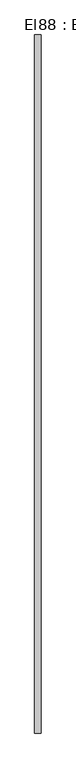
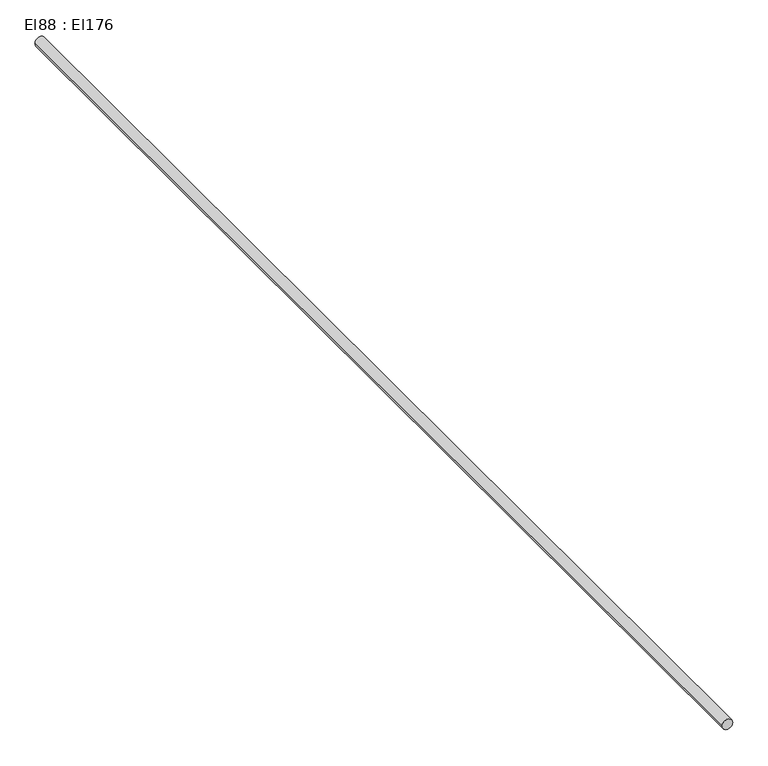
"""IFC4 building model written with IfcOpenShell, lengths in millimetres: cable carrier segment geometry, El88 : El176."""

import ifcopenshell
import ifcopenshell.guid

model = None  # the IFC model being written
_history = None  # IfcOwnerHistory: only IFC2X3 demands one
_inside = {}  # id of a spatial element -> (the spatial element, [elements in it])
_under = {}  # id of a project, library or spatial element -> (it, [spatial elements below it])
_declared = {}  # id of a project -> (the project, [libraries it declares])
_typed = {}  # id of a type object -> (the type object, [elements of that type])
_made_of = {}  # id of a material, layer set ... -> (it, [elements and type objects made of it])


def new_model(schema):
    """Start an empty IFC model of exactly this schema.

    Asked for "IFC4X3", IfcOpenShell would pick the latest addendum, in which some entities
    have other attributes; the version numbers below select the first issue.
    IFC2X3 requires an IfcOwnerHistory on every rooted entity: one is made here for all.
    """
    global model, _history
    if schema == "IFC4X3":
        model = ifcopenshell.file(schema_version=(4, 3, 0, 0))
    else:
        model = ifcopenshell.file(schema=schema)
    _inside.clear()
    _under.clear()
    _declared.clear()
    _typed.clear()
    _made_of.clear()
    _history = None
    if model.schema == "IFC2X3":
        org = make("IfcOrganization", Name="unknown")
        user = make(
            "IfcPersonAndOrganization",
            ThePerson=make("IfcPerson", FamilyName="unknown"),
            TheOrganization=org,
        )
        app = make(
            "IfcApplication",
            ApplicationDeveloper=org,
            Version="unknown",
            ApplicationFullName="unknown",
            ApplicationIdentifier="unknown",
        )
        _history = make(
            "IfcOwnerHistory",
            OwningUser=user,
            OwningApplication=app,
            ChangeAction="ADDED",
            CreationDate=0,
        )
    return model


def make(cls, **values):
    """One entity of the class cls with the attributes given. An attribute that is None is left unset."""
    return model.create_entity(
        cls, **{name: value for name, value in values.items() if value is not None}
    )


def rooted(cls, **values):
    """An entity with a GlobalId (a new one), such as an element, a storey or a relation."""
    return make(cls, GlobalId=ifcopenshell.guid.new(), OwnerHistory=_history, **values)


def si_unit(unit_type, name, prefix=None):
    """IfcSIUnit, for example si_unit("LENGTHUNIT", "METRE", prefix="MILLI")."""
    return make("IfcSIUnit", UnitType=unit_type, Prefix=prefix, Name=name)


def assignment(units):
    """IfcUnitAssignment: the units of a project."""
    return None if units is None else make("IfcUnitAssignment", Units=units)


def point(xyz):
    """IfcCartesianPoint."""
    return None if xyz is None else make("IfcCartesianPoint", Coordinates=xyz)


def direction(xyz):
    """IfcDirection."""
    return None if xyz is None else make("IfcDirection", DirectionRatios=xyz)


def frame(location, z_axis=None, x_axis=None):
    """IfcAxis2Placement3D, a coordinate frame: its origin and axes. An axis left out is left unset."""
    return make(
        "IfcAxis2Placement3D",
        Location=point(location),
        Axis=direction(z_axis),
        RefDirection=direction(x_axis),
    )


def frame_2d(location, x_axis=None):
    """IfcAxis2Placement2D, a coordinate frame in the plane: its origin and x axis."""
    return make(
        "IfcAxis2Placement2D", Location=point(location), RefDirection=direction(x_axis)
    )


def origin():
    """The frame at (0, 0, 0) with its axes left unset."""
    return frame((0.0, 0.0, 0.0))


def place(relative_to, where):
    """IfcLocalPlacement: puts the frame where relative to a parent placement (None: the world)."""
    return make(
        "IfcLocalPlacement", PlacementRelTo=relative_to, RelativePlacement=where
    )


def context(
    kind, dimensions, precision=None, world=None, true_north=None, identifier=None
):
    """IfcGeometricRepresentationContext, for example the 3D "Model" context."""
    return make(
        "IfcGeometricRepresentationContext",
        ContextIdentifier=identifier,
        ContextType=kind,
        CoordinateSpaceDimension=dimensions,
        Precision=precision,
        WorldCoordinateSystem=world,
        TrueNorth=true_north,
    )


def project(units=None, contexts=None):
    """IfcProject with its units and contexts."""
    return rooted(
        "IfcProject",
        Name="project",
        RepresentationContexts=contexts,
        UnitsInContext=assignment(units),
    )


def spatial(cls, under=None, at=None, **own):
    """A site, building, storey or space (cls), placed at a placement, below another one or the project."""
    s = rooted(cls, ObjectPlacement=at, **own)
    if under is not None:
        _under.setdefault(under.id(), (under, []))[1].append(s)
    return s


def circle_curve(where, radius):
    """IfcCircle in the frame where."""
    return make("IfcCircle", Position=where, Radius=radius)


def trimmed(basis, trim1, trim2, sense, master):
    """IfcTrimmedCurve: the piece of a basis curve between two trims."""
    return make(
        "IfcTrimmedCurve",
        BasisCurve=basis,
        Trim1=trim1,
        Trim2=trim2,
        SenseAgreement=sense,
        MasterRepresentation=master,
    )


def segment(curve, same_sense, transition):
    """IfcCompositeCurveSegment."""
    return make(
        "IfcCompositeCurveSegment",
        Transition=transition,
        SameSense=same_sense,
        ParentCurve=curve,
    )


def composite_curve(segments, self_intersect=None):
    """IfcCompositeCurve: segments joined end to end."""
    return make("IfcCompositeCurve", Segments=segments, SelfIntersect=self_intersect)


def outline(outer, holes=None, kind="AREA"):
    """IfcArbitraryClosedProfileDef: a profile drawn as a closed curve; with holes, ...WithVoids."""
    if holes is None:
        return make("IfcArbitraryClosedProfileDef", ProfileType=kind, OuterCurve=outer)
    return make(
        "IfcArbitraryProfileDefWithVoids",
        ProfileType=kind,
        OuterCurve=outer,
        InnerCurves=holes,
    )


def extrude(swept, where, along, depth):
    """IfcExtrudedAreaSolid: the profile swept, set in the frame where, extruded along a direction by depth."""
    return make(
        "IfcExtrudedAreaSolid",
        SweptArea=swept,
        Position=where,
        ExtrudedDirection=direction(along),
        Depth=depth,
    )


def shape(context_of_items, identifier, shape_type, items):
    """IfcShapeRepresentation: the items that make up one representation, for example the "Body"."""
    return make(
        "IfcShapeRepresentation",
        ContextOfItems=context_of_items,
        RepresentationIdentifier=identifier,
        RepresentationType=shape_type,
        Items=items,
    )


def source(mapping_origin, context_of_items, identifier, shape_type, items):
    """IfcRepresentationMap: a shape defined once, which mapped items show again and again."""
    return make(
        "IfcRepresentationMap",
        MappingOrigin=mapping_origin,
        MappedRepresentation=shape(context_of_items, identifier, shape_type, items),
    )


def transform(
    local_origin,
    x_axis=None,
    y_axis=None,
    z_axis=None,
    scale=None,
    scale2=None,
    scale3=None,
    uniform=True,
):
    """IfcCartesianTransformationOperator3D, or its non-uniform kind. x_axis, y_axis, z_axis: its Axis1, 2, 3."""
    if uniform:
        return make(
            "IfcCartesianTransformationOperator3D",
            Axis1=direction(x_axis),
            Axis2=direction(y_axis),
            LocalOrigin=point(local_origin),
            Scale=scale,
            Axis3=direction(z_axis),
        )
    return make(
        "IfcCartesianTransformationOperator3DnonUniform",
        Axis1=direction(x_axis),
        Axis2=direction(y_axis),
        LocalOrigin=point(local_origin),
        Scale=scale,
        Axis3=direction(z_axis),
        Scale2=scale2,
        Scale3=scale3,
    )


def mapped(mapping_source, mapping_target):
    """IfcMappedItem: shows the shape of a source again, moved by a transform."""
    return make(
        "IfcMappedItem", MappingSource=mapping_source, MappingTarget=mapping_target
    )


def made_of(thing, what):
    """Note that an element or type object is made of a material, layer set ...; save() writes the relation."""
    if what is not None:
        _made_of.setdefault(what.id(), (what, []))[1].append(thing)
    return thing


def element(
    cls,
    number,
    at=None,
    inside=None,
    cuts=None,
    type_object=None,
    material=None,
    context=None,
    identifier="Body",
    shape_type=None,
    held_by="IfcProductDefinitionShape",
    body=None,
    shapes=None,
    **own,
):
    """One element of the class cls, such as IfcWall. Its Tag is "e" and its number.

    at: its placement. inside: the storey or other place that contains it. cuts: it is an
    opening in that element (IfcRelVoidsElement). A single representation is given by context,
    identifier, shape_type and body (its items); several are given by shapes. held_by: the class
    of the entity that holds the representations. save() writes the other relations.
    """
    e = rooted(cls, Tag="e%d" % number, ObjectPlacement=at, **own)
    if body is not None:
        shapes = [shape(context, identifier, shape_type, body)]
    if shapes is not None:
        e.Representation = make(held_by, Representations=shapes)
    if inside is not None:
        _inside.setdefault(inside.id(), (inside, []))[1].append(e)
    if cuts is not None:
        rooted(
            "IfcRelVoidsElement", RelatingBuildingElement=cuts, RelatedOpeningElement=e
        )
    if type_object is not None:
        _typed.setdefault(type_object.id(), (type_object, []))[1].append(e)
    return made_of(e, material)


def aggregate(whole, parts):
    """IfcRelAggregates: a whole, such as a stair, and the parts it consists of."""
    return rooted("IfcRelAggregates", RelatingObject=whole, RelatedObjects=parts)


def save(model, path):
    """Write the relations noted so far, then the file.

    IfcRelAggregates (storeys below a building ...), IfcRelContainedInSpatialStructure (elements
    in a storey), IfcRelDefinesByType, IfcRelAssociatesMaterial and IfcRelDeclares: one each for
    every whole, place, type object, material and project.
    """
    for whole, parts in _under.values():
        aggregate(whole, parts)
    for where, things in _inside.values():
        rooted(
            "IfcRelContainedInSpatialStructure",
            RelatedElements=things,
            RelatingStructure=where,
        )
    for kind, things in _typed.values():
        rooted("IfcRelDefinesByType", RelatedObjects=things, RelatingType=kind)
    for what, things in _made_of.values():
        rooted("IfcRelAssociatesMaterial", RelatedObjects=things, RelatingMaterial=what)
    for by, libraries in _declared.values():
        rooted("IfcRelDeclares", RelatingContext=by, RelatedDefinitions=libraries)
    model.write(path)


def el88_el176_837a4fff(model_context):
    return source(origin(), model_context, "Body", "SweptSolid", [
        extrude(outline(composite_curve([segment(trimmed(circle_curve(frame_2d((1800.0, 114.4746511)), 9.5), [point((1800.0, 104.9746511))], [point((1800.0, 123.9746511))], False, "CARTESIAN"), True, "CONTINUOUS"), segment(trimmed(circle_curve(frame_2d((1800.0, 114.4746511)), 9.5), [point((1800.0, 123.9746511))], [point((1800.0, 104.9746511))], False, "CARTESIAN"), True, "CONTINUOUS")], self_intersect=False)), frame((0.0, 22432.9821745, 0.0), z_axis=(0.0, 1.0, 0.0), x_axis=(0.0, 0.0, 1.0)), (0.0, 0.0, 1.0), 2134.26),
    ])


if __name__ == "__main__":
    model = new_model("IFC4")
    model_context = context("Model", 3, world=origin())
    ifc_project = project(units=[si_unit("LENGTHUNIT", "METRE", prefix="MILLI")], contexts=[model_context])
    site = spatial("IfcSite", under=ifc_project)
    building = spatial("IfcBuilding", under=site)
    placement = place(None, origin())
    el88_el176_shape = el88_el176_837a4fff(model_context)
    element("IfcCableCarrierSegment", 1, ObjectType="El88 : El176", at=placement, inside=building, context=model_context, shape_type="MappedRepresentation", body=[
        mapped(el88_el176_shape, transform((0.0, 0.0, 0.0), x_axis=(1.0, 0.0, 0.0), y_axis=(0.0, 1.0, 0.0), z_axis=(0.0, 0.0, 1.0))),
    ])
    save(model, "model.ifc")
